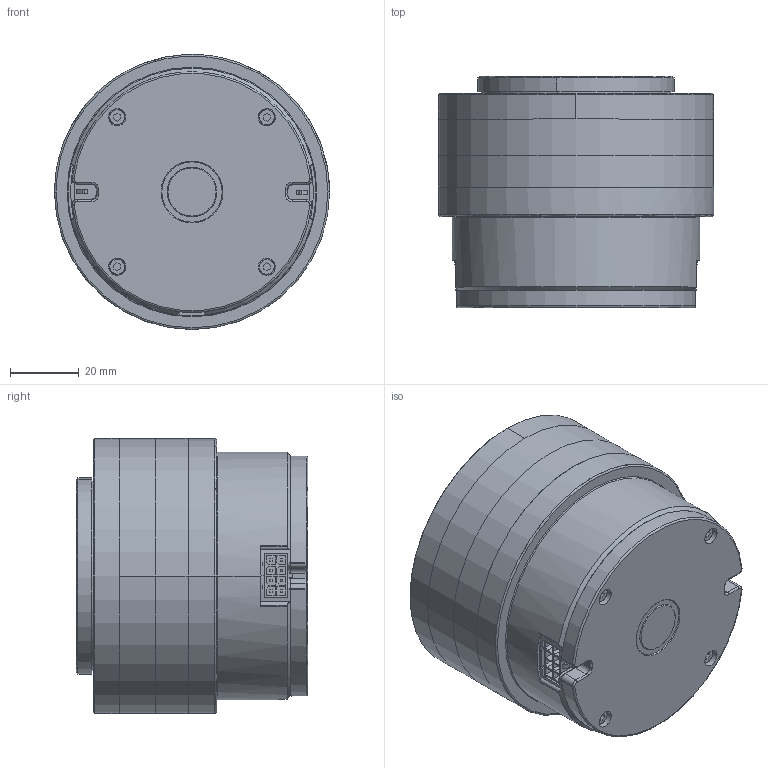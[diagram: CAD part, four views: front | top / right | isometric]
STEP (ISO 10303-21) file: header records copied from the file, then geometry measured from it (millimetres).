
FILE_DESCRIPTION (( 'STEP AP214' ), '1' );
FILE_NAME ('QDD-6010-6_v2_2.STEP', '2019-05-08T09:44:23', ( 'Microsoft' ), ( 'Microsoft' ), 'SwSTEP 2.0', 'SolidWorks 2018', '' );
FILE_SCHEMA (( 'AUTOMOTIVE_DESIGN' ));
Length unit declared in the file: millimetre
Products named in the file (1): QDD-6010-6_v2_2
Bounding box: 80 x 67.3 x 80 mm (x, y, z)
Volume: 270070.7 mm3; surface area: 102502.2 mm2
Topology: 25 solids, 26 shells, 1778 faces, 4534 edges, 2886 vertices
Faces by surface type: plane 1043, cylinder 472, cone 177, torus 71, bspline 15
Entity records: 77471 total; most frequent: CARTESIAN_POINT 14499, ORIENTED_EDGE 8996, DIRECTION 8633, EDGE_CURVE 4498, LINE 3133, VECTOR 3133, VERTEX_POINT 2886, AXIS2_PLACEMENT_3D 2750
